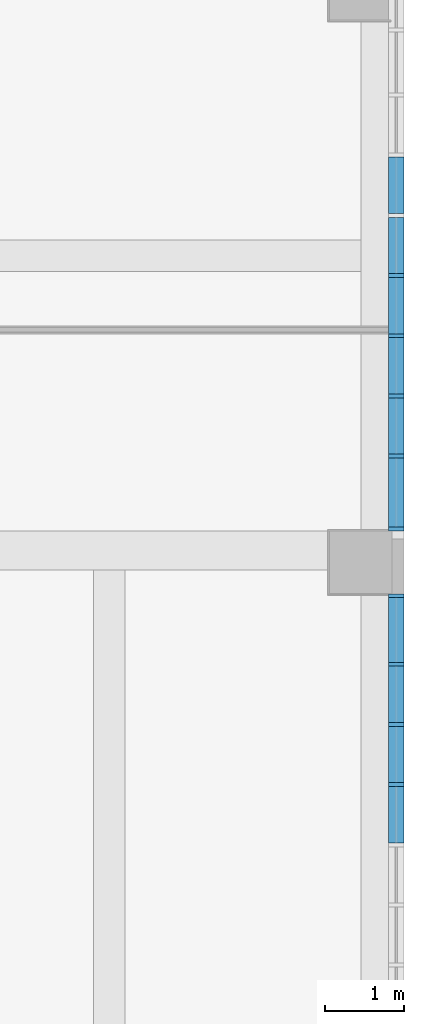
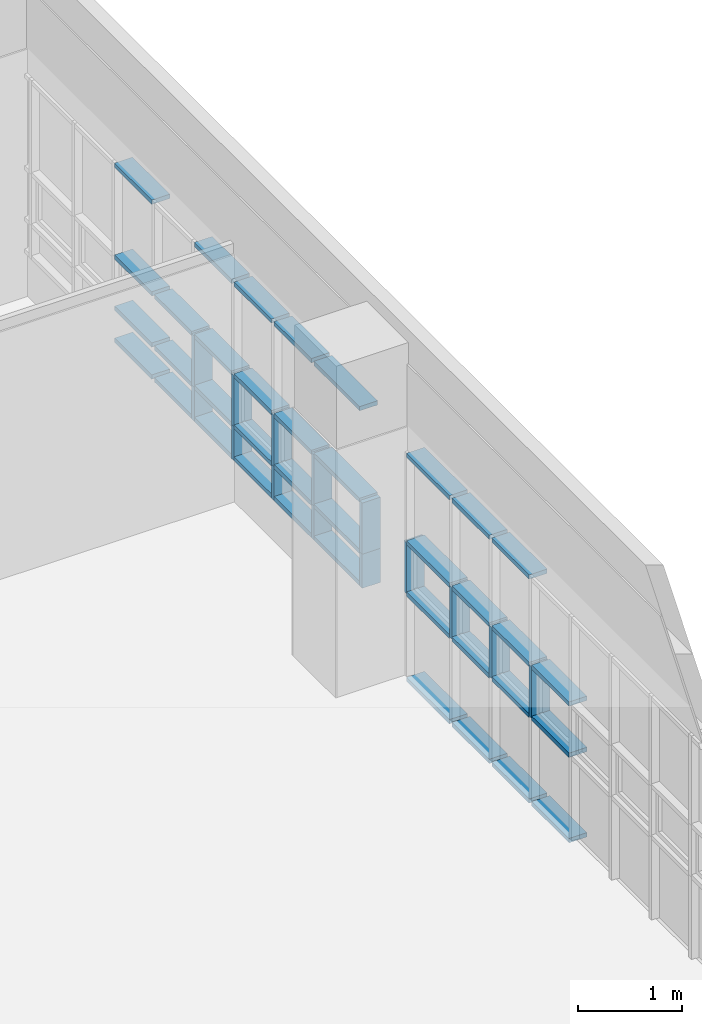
# One storey, part 20 of 81: 52 members, 2 elements without a shape of their own.
"""IFC2X3 building model written with IfcOpenShell, lengths in millimetres."""

from ifc_helpers import new_model, entity, si_unit, converted_unit, derived_unit, direction, frame, origin, origin_2d_with_axis, place, context, subcontext, project, spatial, rectangle, extrude, source, transform, mapped, material, type_object, type_shapes, element, aggregate, save


model = new_model("IFC2X3")

# Units and contexts
model_context = context("Model", 3, precision=0.01, world=origin(), true_north=direction((6.123031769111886e-17, 1.0)))
body_context = subcontext(model_context, "Body", "Model", "MODEL_VIEW")
ifc_project = project(units=[si_unit("LENGTHUNIT", "METRE", prefix="MILLI"), si_unit("AREAUNIT", "SQUARE_METRE"), si_unit("VOLUMEUNIT", "CUBIC_METRE"), converted_unit("PLANEANGLEUNIT", "DEGREE", entity("IfcRatioMeasure", 0.017453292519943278), si_unit("PLANEANGLEUNIT", "RADIAN"), dimensions=[0, 0, 0, 0, 0, 0, 0]), si_unit("MASSUNIT", "GRAM", prefix="KILO"), derived_unit("MASSDENSITYUNIT", [(si_unit("MASSUNIT", "GRAM", prefix="KILO"), 1), (si_unit("LENGTHUNIT", "METRE"), -3)]), derived_unit("MOMENTOFINERTIAUNIT", [(si_unit("LENGTHUNIT", "METRE"), 4)]), si_unit("TIMEUNIT", "SECOND"), si_unit("FREQUENCYUNIT", "HERTZ"), si_unit("THERMODYNAMICTEMPERATUREUNIT", "DEGREE_CELSIUS"), derived_unit("THERMALTRANSMITTANCEUNIT", [(si_unit("MASSUNIT", "GRAM", prefix="KILO"), 1), (si_unit("THERMODYNAMICTEMPERATUREUNIT", "KELVIN"), -1), (si_unit("TIMEUNIT", "SECOND"), -3)]), derived_unit("VOLUMETRICFLOWRATEUNIT", [(si_unit("LENGTHUNIT", "METRE"), 3), (si_unit("TIMEUNIT", "SECOND"), -1)]), derived_unit("MASSFLOWRATEUNIT", [(si_unit("MASSUNIT", "GRAM", prefix="KILO"), 1), (si_unit("TIMEUNIT", "SECOND"), -1)]), derived_unit("ROTATIONALFREQUENCYUNIT", [(si_unit("TIMEUNIT", "SECOND"), -1)]), si_unit("ELECTRICCURRENTUNIT", "AMPERE"), si_unit("ELECTRICVOLTAGEUNIT", "VOLT"), si_unit("POWERUNIT", "WATT"), si_unit("FORCEUNIT", "NEWTON", prefix="KILO"), si_unit("ILLUMINANCEUNIT", "LUX"), si_unit("LUMINOUSFLUXUNIT", "LUMEN"), si_unit("LUMINOUSINTENSITYUNIT", "CANDELA"), derived_unit("USERDEFINED", [(si_unit("MASSUNIT", "GRAM", prefix="KILO"), -1), (si_unit("LENGTHUNIT", "METRE"), -2), (si_unit("TIMEUNIT", "SECOND"), 3), (si_unit("LUMINOUSFLUXUNIT", "LUMEN"), 1)]), derived_unit("SOUNDPOWERUNIT", [(si_unit("MASSUNIT", "GRAM", prefix="KILO"), 1), (si_unit("LENGTHUNIT", "METRE"), 2), (si_unit("TIMEUNIT", "SECOND"), -3)]), derived_unit("SOUNDPRESSUREUNIT", [(si_unit("MASSUNIT", "GRAM", prefix="KILO"), 1), (si_unit("LENGTHUNIT", "METRE"), -1), (si_unit("TIMEUNIT", "SECOND"), -2)]), derived_unit("LINEARVELOCITYUNIT", [(si_unit("LENGTHUNIT", "METRE"), 1), (si_unit("TIMEUNIT", "SECOND"), -1)]), si_unit("PRESSUREUNIT", "PASCAL"), derived_unit("USERDEFINED", [(si_unit("LENGTHUNIT", "METRE"), -2), (si_unit("MASSUNIT", "GRAM", prefix="KILO"), 1), (si_unit("TIMEUNIT", "SECOND"), -2)]), derived_unit("LINEARFORCEUNIT", [(si_unit("MASSUNIT", "GRAM", prefix="KILO"), 1), (si_unit("LENGTHUNIT", "METRE"), 1), (si_unit("TIMEUNIT", "SECOND"), -2), (si_unit("LENGTHUNIT", "METRE"), -1)]), derived_unit("PLANARFORCEUNIT", [(si_unit("MASSUNIT", "GRAM", prefix="KILO"), 1), (si_unit("LENGTHUNIT", "METRE"), 1), (si_unit("TIMEUNIT", "SECOND"), -2), (si_unit("LENGTHUNIT", "METRE"), -2)])], contexts=[model_context])

# Site, building, storey
site_placement = place(None, frame((-14167.972527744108, -657.2125860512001, 0.0)))
site = spatial("IfcSite", under=ifc_project, at=site_placement, Name="Default", CompositionType="ELEMENT")
building_placement = place(site_placement, origin())
building = spatial("IfcBuilding", under=site, at=building_placement, Name="Sample Building", CompositionType="ELEMENT")
storey_placement = place(building_placement, frame((0.0, 0.0, 13400.0)))
storey = spatial("IfcBuildingStorey", under=building, at=storey_placement, Name="지상 4층", CompositionType="ELEMENT", Elevation=13400.00000000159)

# Curtain wall, members
curtain_wall_type = type_object("IfcCurtainWallType", Name="커튼월:CW112-스테인리스 스틸 커튼월", PredefinedType="NOTDEFINED")
curtain_wall_1_placement = place(storey_placement, frame((0.0, 0.0, -13400.0)))
curtain_wall_1 = element("IfcCurtainWall", 1, at=curtain_wall_1_placement, inside=storey, type_object=curtain_wall_type, Name="커튼월:CW112-스테인리스 스틸 커튼월", ObjectType="커튼월:CW112-스테인리스 스틸 커튼월")
ifc_material = material(Name="<Unnamed>")
member_type_1 = type_object("IfcMemberType", Name="직사각형 멀리언:CW200-직사각형 멀리언 50x200mm", PredefinedType="MULLION", material=ifc_material)
shared_shape_1 = source(origin(), body_context, "Body", "SweptSolid", [
    extrude(rectangle(XDim=200.0, YDim=50.0, at=origin_2d_with_axis()), frame((0.0, 0.0, -600.0), z_axis=(0.0, 0.0, 1.0), x_axis=(0.0, -1.0, 0.0)), (0.0, 0.0, 1.0), 600.0),
])
type_shapes(member_type_1, [shared_shape_1])
member_1_placement = place(curtain_wall_1_placement, frame((51517.96382893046, 9827.783036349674, 14450.0), z_axis=(0.0, 0.0, -1.0), x_axis=(0.0, -1.0, 0.0)))
member_1 = element("IfcMember", 2, at=member_1_placement, type_object=member_type_1, material=ifc_material, Name="직사각형 멀리언:CW200-직사각형 멀리언 50x200mm", ObjectType="직사각형 멀리언:CW200-직사각형 멀리언 50x200mm", context=body_context, shape_type="MappedRepresentation", body=[
    mapped(shared_shape_1, transform((0.0, 0.0, 0.0), scale=1.0)),
])
member_2_placement = place(curtain_wall_1_placement, frame((51517.96382893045, 10593.783036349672, 14450.0), z_axis=(0.0, 0.0, -1.0), x_axis=(0.0, -1.0, 0.0)))
member_2 = element("IfcMember", 3, at=member_2_placement, type_object=member_type_1, material=ifc_material, Name="직사각형 멀리언:CW200-직사각형 멀리언 50x200mm", ObjectType="직사각형 멀리언:CW200-직사각형 멀리언 50x200mm", context=body_context, shape_type="MappedRepresentation", body=[
    mapped(shared_shape_1, transform((0.0, 0.0, 0.0), scale=1.0)),
])
member_3_placement = place(curtain_wall_1_placement, frame((51517.96382893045, 11359.783036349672, 14450.0), z_axis=(0.0, 0.0, -1.0), x_axis=(0.0, -1.0, 0.0)))
member_3 = element("IfcMember", 4, at=member_3_placement, type_object=member_type_1, material=ifc_material, Name="직사각형 멀리언:CW200-직사각형 멀리언 50x200mm", ObjectType="직사각형 멀리언:CW200-직사각형 멀리언 50x200mm", context=body_context, shape_type="MappedRepresentation", body=[
    mapped(shared_shape_1, transform((0.0, 0.0, 0.0), scale=1.0)),
])
member_type_2 = type_object("IfcMemberType", Name="직사각형 멀리언:CW200-직사각형 멀리언 50x200mm", PredefinedType="MULLION", material=ifc_material)
shared_shape_2 = source(origin(), body_context, "Body", "SweptSolid", [
    extrude(rectangle(XDim=200.0, YDim=50.0, at=origin_2d_with_axis()), frame((-25.0, 0.0, -600.0), z_axis=(0.0, 0.0, 1.0), x_axis=(0.0, -1.0, 0.0)), (0.0, 0.0, 1.0), 599.9999999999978),
])
type_shapes(member_type_2, [shared_shape_2])
member_4_placement = place(curtain_wall_1_placement, frame((51517.96382893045, 12257.177624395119, 15050.0), z_axis=(0.0, 0.0, 1.0), x_axis=(0.0, 1.0, 0.0)))
member_4 = element("IfcMember", 5, at=member_4_placement, type_object=member_type_2, material=ifc_material, Name="직사각형 멀리언:CW200-직사각형 멀리언 50x200mm", ObjectType="직사각형 멀리언:CW200-직사각형 멀리언 50x200mm", context=body_context, shape_type="MappedRepresentation", body=[
    mapped(shared_shape_2, transform((0.0, 0.0, 0.0), scale=1.0)),
])

curtain_wall_2_placement = place(storey_placement, frame((0.0, 0.0, -13400.0)))
curtain_wall_2 = element("IfcCurtainWall", 6, at=curtain_wall_2_placement, inside=storey, type_object=curtain_wall_type, Name="커튼월:CW112-스테인리스 스틸 커튼월", ObjectType="커튼월:CW112-스테인리스 스틸 커튼월")
member_type_3 = type_object("IfcMemberType", Name="직사각형 멀리언:CW200-직사각형 멀리언 50x200mm", PredefinedType="MULLION", material=ifc_material)
shared_shape_3 = source(origin(), body_context, "Body", "SweptSolid", [
    extrude(rectangle(XDim=200.0, YDim=50.0, at=origin_2d_with_axis()), frame((0.0, 0.0, -600.0), z_axis=(0.0, 0.0, 1.0), x_axis=(0.0, -1.0, 0.0)), (0.0, 0.0, 1.0), 599.9999999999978),
])
type_shapes(member_type_3, [shared_shape_3])
member_5_placement = place(curtain_wall_2_placement, frame((51517.96382893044, 14775.71229514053, 14400.0), z_axis=(0.0, 0.0, -1.0), x_axis=(0.0, -1.0, 0.0)))
member_5 = element("IfcMember", 7, at=member_5_placement, type_object=member_type_3, material=ifc_material, Name="직사각형 멀리언:CW200-직사각형 멀리언 50x200mm", ObjectType="직사각형 멀리언:CW200-직사각형 멀리언 50x200mm", context=body_context, shape_type="MappedRepresentation", body=[
    mapped(shared_shape_3, transform((0.0, 0.0, 0.0), scale=1.0)),
])
member_6_placement = place(curtain_wall_2_placement, frame((51517.96382893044, 14009.712295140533, 14400.0), z_axis=(0.0, 0.0, -1.0), x_axis=(0.0, -1.0, 0.0)))
member_6 = element("IfcMember", 8, at=member_6_placement, type_object=member_type_3, material=ifc_material, Name="직사각형 멀리언:CW200-직사각형 멀리언 50x200mm", ObjectType="직사각형 멀리언:CW200-직사각형 멀리언 50x200mm", context=body_context, shape_type="MappedRepresentation", body=[
    mapped(shared_shape_3, transform((0.0, 0.0, 0.0), scale=1.0)),
])
member_7_placement = place(curtain_wall_2_placement, frame((51517.96382893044, 15541.712295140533, 14400.0), z_axis=(0.0, 0.0, -1.0), x_axis=(0.0, -1.0, 0.0)))
member_7 = element("IfcMember", 9, at=member_7_placement, type_object=member_type_3, material=ifc_material, Name="직사각형 멀리언:CW200-직사각형 멀리언 50x200mm", ObjectType="직사각형 멀리언:CW200-직사각형 멀리언 50x200mm", context=body_context, shape_type="MappedRepresentation", body=[
    mapped(shared_shape_3, transform((0.0, 0.0, 0.0), scale=1.0)),
])
member_8_placement = place(curtain_wall_2_placement, frame((51517.96382893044, 16307.712295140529, 14400.0), z_axis=(0.0, 0.0, -1.0), x_axis=(0.0, -1.0, 0.0)))
member_8 = element("IfcMember", 10, at=member_8_placement, type_object=member_type_3, material=ifc_material, Name="직사각형 멀리언:CW200-직사각형 멀리언 50x200mm", ObjectType="직사각형 멀리언:CW200-직사각형 멀리언 50x200mm", context=body_context, shape_type="MappedRepresentation", body=[
    mapped(shared_shape_3, transform((0.0, 0.0, 0.0), scale=1.0)),
])
member_type_4 = type_object("IfcMemberType", Name="직사각형 멀리언:CW200-직사각형 멀리언 50x200mm", PredefinedType="MULLION", material=ifc_material)
shared_shape_4 = source(origin(), body_context, "Body", "SweptSolid", [
    extrude(rectangle(XDim=200.0, YDim=50.0, at=origin_2d_with_axis()), frame((-25.0, 0.0, -716.0), z_axis=(0.0, 0.0, 1.0), x_axis=(0.0, -1.0, 0.0)), (0.0, 0.0, 1.0), 715.9999999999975),
])
type_shapes(member_type_4, [shared_shape_4])
member_9_placement = place(curtain_wall_2_placement, frame((51517.96382893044, 17098.71229514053, 16100.0), z_axis=(0.0, -1.0, 0.0), x_axis=(0.0, 0.0, 1.0)))
member_9 = element("IfcMember", 11, at=member_9_placement, type_object=member_type_4, material=ifc_material, Name="직사각형 멀리언:CW200-직사각형 멀리언 50x200mm", ObjectType="직사각형 멀리언:CW200-직사각형 멀리언 50x200mm", context=body_context, shape_type="MappedRepresentation", body=[
    mapped(shared_shape_4, transform((0.0, 0.0, 0.0), scale=1.0)),
])
member_10_placement = place(curtain_wall_2_placement, frame((51517.96382893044, 14800.712295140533, 16100.0), z_axis=(0.0, -1.0, 0.0), x_axis=(0.0, 0.0, 1.0)))
member_10 = element("IfcMember", 12, at=member_10_placement, type_object=member_type_4, material=ifc_material, Name="직사각형 멀리언:CW200-직사각형 멀리언 50x200mm", ObjectType="직사각형 멀리언:CW200-직사각형 멀리언 50x200mm", context=body_context, shape_type="MappedRepresentation", body=[
    mapped(shared_shape_4, transform((0.0, 0.0, 0.0), scale=1.0)),
])
member_11_placement = place(curtain_wall_2_placement, frame((51517.96382893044, 14034.712295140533, 16100.0), z_axis=(0.0, -1.0, 0.0), x_axis=(0.0, 0.0, 1.0)))
member_11 = element("IfcMember", 13, at=member_11_placement, type_object=member_type_4, material=ifc_material, Name="직사각형 멀리언:CW200-직사각형 멀리언 50x200mm", ObjectType="직사각형 멀리언:CW200-직사각형 멀리언 50x200mm", context=body_context, shape_type="MappedRepresentation", body=[
    mapped(shared_shape_4, transform((0.0, 0.0, 0.0), scale=1.0)),
])
member_12_placement = place(curtain_wall_2_placement, frame((51517.96382893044, 15566.71229514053, 16100.0), z_axis=(0.0, -1.0, 0.0), x_axis=(0.0, 0.0, 1.0)))
member_12 = element("IfcMember", 14, at=member_12_placement, type_object=member_type_4, material=ifc_material, Name="직사각형 멀리언:CW200-직사각형 멀리언 50x200mm", ObjectType="직사각형 멀리언:CW200-직사각형 멀리언 50x200mm", context=body_context, shape_type="MappedRepresentation", body=[
    mapped(shared_shape_4, transform((0.0, 0.0, 0.0), scale=1.0)),
])
member_type_5 = type_object("IfcMemberType", Name="직사각형 멀리언:CW200-직사각형 멀리언 50x200mm", PredefinedType="MULLION", material=ifc_material)
shared_shape_5 = source(origin(), body_context, "Body", "SweptSolid", [
    extrude(rectangle(XDim=200.0, YDim=50.0, at=origin_2d_with_axis()), frame((-25.0, 0.0, -716.0), z_axis=(0.0, 0.0, 1.0), x_axis=(0.0, -1.0, 0.0)), (0.0, 0.0, 1.0), 716.0000000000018),
])
type_shapes(member_type_5, [shared_shape_5])
member_13_placement = place(curtain_wall_2_placement, frame((51517.96382893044, 17814.712295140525, 14000.0), z_axis=(0.0, 1.0, 0.0), x_axis=(0.0, 0.0, -1.0)))
member_13 = element("IfcMember", 15, at=member_13_placement, type_object=member_type_5, material=ifc_material, Name="직사각형 멀리언:CW200-직사각형 멀리언 50x200mm", ObjectType="직사각형 멀리언:CW200-직사각형 멀리언 50x200mm", context=body_context, shape_type="MappedRepresentation", body=[
    mapped(shared_shape_5, transform((0.0, 0.0, 0.0), scale=1.0)),
])
member_14_placement = place(curtain_wall_2_placement, frame((51517.96382893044, 17048.71229514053, 14000.0), z_axis=(0.0, 1.0, 0.0), x_axis=(0.0, 0.0, -1.0)))
member_14 = element("IfcMember", 16, at=member_14_placement, type_object=member_type_5, material=ifc_material, Name="직사각형 멀리언:CW200-직사각형 멀리언 50x200mm", ObjectType="직사각형 멀리언:CW200-직사각형 멀리언 50x200mm", context=body_context, shape_type="MappedRepresentation", body=[
    mapped(shared_shape_5, transform((0.0, 0.0, 0.0), scale=1.0)),
])
member_15_placement = place(curtain_wall_2_placement, frame((51517.96382893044, 14750.71229514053, 14000.0), z_axis=(0.0, 1.0, 0.0), x_axis=(0.0, 0.0, -1.0)))
member_15 = element("IfcMember", 17, at=member_15_placement, type_object=member_type_5, material=ifc_material, Name="직사각형 멀리언:CW200-직사각형 멀리언 50x200mm", ObjectType="직사각형 멀리언:CW200-직사각형 멀리언 50x200mm", context=body_context, shape_type="MappedRepresentation", body=[
    mapped(shared_shape_5, transform((0.0, 0.0, 0.0), scale=1.0)),
])
member_16_placement = place(curtain_wall_2_placement, frame((51517.96382893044, 15516.712295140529, 14000.0), z_axis=(0.0, 1.0, 0.0), x_axis=(0.0, 0.0, -1.0)))
member_16 = element("IfcMember", 18, at=member_16_placement, type_object=member_type_5, material=ifc_material, Name="직사각형 멀리언:CW200-직사각형 멀리언 50x200mm", ObjectType="직사각형 멀리언:CW200-직사각형 멀리언 50x200mm", context=body_context, shape_type="MappedRepresentation", body=[
    mapped(shared_shape_5, transform((0.0, 0.0, 0.0), scale=1.0)),
])
member_17_placement = place(curtain_wall_2_placement, frame((51517.96382893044, 16282.712295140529, 14000.0), z_axis=(0.0, 1.0, 0.0), x_axis=(0.0, 0.0, -1.0)))
member_17 = element("IfcMember", 19, at=member_17_placement, type_object=member_type_5, material=ifc_material, Name="직사각형 멀리언:CW200-직사각형 멀리언 50x200mm", ObjectType="직사각형 멀리언:CW200-직사각형 멀리언 50x200mm", context=body_context, shape_type="MappedRepresentation", body=[
    mapped(shared_shape_5, transform((0.0, 0.0, 0.0), scale=1.0)),
])
member_type_6 = type_object("IfcMemberType", Name="직사각형 멀리언:CW200-직사각형 멀리언 50x200mm", PredefinedType="MULLION", material=ifc_material)
shared_shape_6 = source(origin(), body_context, "Body", "SweptSolid", [
    extrude(rectangle(XDim=200.0, YDim=50.0, at=origin_2d_with_axis()), frame((0.0, 0.0, -716.0), z_axis=(0.0, 0.0, 1.0), x_axis=(0.0, -1.0, 0.0)), (0.0, 0.0, 1.0), 715.9999999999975),
])
type_shapes(member_type_6, [shared_shape_6])
member_18_placement = place(curtain_wall_2_placement, frame((51517.96382893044, 17098.71229514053, 14400.0), z_axis=(0.0, -1.0, 0.0), x_axis=(0.0, 0.0, 1.0)))
member_18 = element("IfcMember", 20, at=member_18_placement, type_object=member_type_6, material=ifc_material, Name="직사각형 멀리언:CW200-직사각형 멀리언 50x200mm", ObjectType="직사각형 멀리언:CW200-직사각형 멀리언 50x200mm", context=body_context, shape_type="MappedRepresentation", body=[
    mapped(shared_shape_6, transform((0.0, 0.0, 0.0), scale=1.0)),
])
member_19_placement = place(curtain_wall_2_placement, frame((51517.96382893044, 17098.71229514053, 15000.0), z_axis=(0.0, -1.0, 0.0), x_axis=(0.0, 0.0, 1.0)))
member_19 = element("IfcMember", 21, at=member_19_placement, type_object=member_type_6, material=ifc_material, Name="직사각형 멀리언:CW200-직사각형 멀리언 50x200mm", ObjectType="직사각형 멀리언:CW200-직사각형 멀리언 50x200mm", context=body_context, shape_type="MappedRepresentation", body=[
    mapped(shared_shape_6, transform((0.0, 0.0, 0.0), scale=1.0)),
])
member_20_placement = place(curtain_wall_2_placement, frame((51517.96382893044, 16332.71229514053, 14400.0), z_axis=(0.0, -1.0, 0.0), x_axis=(0.0, 0.0, 1.0)))
member_20 = element("IfcMember", 22, at=member_20_placement, type_object=member_type_6, material=ifc_material, Name="직사각형 멀리언:CW200-직사각형 멀리언 50x200mm", ObjectType="직사각형 멀리언:CW200-직사각형 멀리언 50x200mm", context=body_context, shape_type="MappedRepresentation", body=[
    mapped(shared_shape_6, transform((0.0, 0.0, 0.0), scale=1.0)),
])
member_21_placement = place(curtain_wall_2_placement, frame((51517.96382893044, 16332.71229514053, 15000.0), z_axis=(0.0, -1.0, 0.0), x_axis=(0.0, 0.0, 1.0)))
member_21 = element("IfcMember", 23, at=member_21_placement, type_object=member_type_6, material=ifc_material, Name="직사각형 멀리언:CW200-직사각형 멀리언 50x200mm", ObjectType="직사각형 멀리언:CW200-직사각형 멀리언 50x200mm", context=body_context, shape_type="MappedRepresentation", body=[
    mapped(shared_shape_6, transform((0.0, 0.0, 0.0), scale=1.0)),
])
member_22_placement = place(curtain_wall_2_placement, frame((51517.96382893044, 14034.712295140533, 14400.0), z_axis=(0.0, -1.0, 0.0), x_axis=(0.0, 0.0, 1.0)))
member_22 = element("IfcMember", 24, at=member_22_placement, type_object=member_type_6, material=ifc_material, Name="직사각형 멀리언:CW200-직사각형 멀리언 50x200mm", ObjectType="직사각형 멀리언:CW200-직사각형 멀리언 50x200mm", context=body_context, shape_type="MappedRepresentation", body=[
    mapped(shared_shape_6, transform((0.0, 0.0, 0.0), scale=1.0)),
])
member_23_placement = place(curtain_wall_2_placement, frame((51517.96382893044, 14034.71229514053, 15000.0), z_axis=(0.0, -1.0, 0.0), x_axis=(0.0, 0.0, 1.0)))
member_23 = element("IfcMember", 25, at=member_23_placement, type_object=member_type_6, material=ifc_material, Name="직사각형 멀리언:CW200-직사각형 멀리언 50x200mm", ObjectType="직사각형 멀리언:CW200-직사각형 멀리언 50x200mm", context=body_context, shape_type="MappedRepresentation", body=[
    mapped(shared_shape_6, transform((0.0, 0.0, 0.0), scale=1.0)),
])
member_24_placement = place(curtain_wall_2_placement, frame((51517.96382893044, 14800.712295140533, 14400.0), z_axis=(0.0, -1.0, 0.0), x_axis=(0.0, 0.0, 1.0)))
member_24 = element("IfcMember", 26, at=member_24_placement, type_object=member_type_6, material=ifc_material, Name="직사각형 멀리언:CW200-직사각형 멀리언 50x200mm", ObjectType="직사각형 멀리언:CW200-직사각형 멀리언 50x200mm", context=body_context, shape_type="MappedRepresentation", body=[
    mapped(shared_shape_6, transform((0.0, 0.0, 0.0), scale=1.0)),
])
member_25_placement = place(curtain_wall_2_placement, frame((51517.96382893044, 14800.712295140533, 15000.0), z_axis=(0.0, -1.0, 0.0), x_axis=(0.0, 0.0, 1.0)))
member_25 = element("IfcMember", 27, at=member_25_placement, type_object=member_type_6, material=ifc_material, Name="직사각형 멀리언:CW200-직사각형 멀리언 50x200mm", ObjectType="직사각형 멀리언:CW200-직사각형 멀리언 50x200mm", context=body_context, shape_type="MappedRepresentation", body=[
    mapped(shared_shape_6, transform((0.0, 0.0, 0.0), scale=1.0)),
])
member_26_placement = place(curtain_wall_2_placement, frame((51517.96382893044, 15566.712295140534, 14400.0), z_axis=(0.0, -1.0, 0.0), x_axis=(0.0, 0.0, 1.0)))
member_26 = element("IfcMember", 28, at=member_26_placement, type_object=member_type_6, material=ifc_material, Name="직사각형 멀리언:CW200-직사각형 멀리언 50x200mm", ObjectType="직사각형 멀리언:CW200-직사각형 멀리언 50x200mm", context=body_context, shape_type="MappedRepresentation", body=[
    mapped(shared_shape_6, transform((0.0, 0.0, 0.0), scale=1.0)),
])
member_27_placement = place(curtain_wall_2_placement, frame((51517.96382893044, 15566.71229514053, 15000.0), z_axis=(0.0, -1.0, 0.0), x_axis=(0.0, 0.0, 1.0)))
member_27 = element("IfcMember", 29, at=member_27_placement, type_object=member_type_6, material=ifc_material, Name="직사각형 멀리언:CW200-직사각형 멀리언 50x200mm", ObjectType="직사각형 멀리언:CW200-직사각형 멀리언 50x200mm", context=body_context, shape_type="MappedRepresentation", body=[
    mapped(shared_shape_6, transform((0.0, 0.0, 0.0), scale=1.0)),
])

# Member
member_type_7 = type_object("IfcMemberType", Name="직사각형 멀리언:CW200-직사각형 멀리언 50x200mm", PredefinedType="MULLION", material=ifc_material)
shared_shape_7 = source(origin(), body_context, "Body", "SweptSolid", [
    extrude(rectangle(XDim=200.0, YDim=50.0, at=origin_2d_with_axis()), frame((0.0, 0.0, -716.0), z_axis=(0.0, 0.0, 1.0), x_axis=(0.0, -1.0, 0.0)), (0.0, 0.0, 1.0), 715.9999999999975),
])
type_shapes(member_type_7, [shared_shape_7])
member_28_placement = place(curtain_wall_1_placement, frame((51517.96382893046, 9086.783036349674, 13450.0), z_axis=(0.0, -1.0, 0.0), x_axis=(0.0, 0.0, 1.0)))
member_28 = element("IfcMember", 30, at=member_28_placement, type_object=member_type_7, material=ifc_material, Name="직사각형 멀리언:CW200-직사각형 멀리언 50x200mm", ObjectType="직사각형 멀리언:CW200-직사각형 멀리언 50x200mm", context=body_context, shape_type="MappedRepresentation", body=[
    mapped(shared_shape_7, transform((0.0, 0.0, 0.0), scale=1.0)),
])

member_29_placement = place(curtain_wall_1_placement, frame((51517.96382893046, 9086.783036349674, 14450.0), z_axis=(0.0, -1.0, 0.0), x_axis=(0.0, 0.0, 1.0)))
member_29 = element("IfcMember", 31, at=member_29_placement, type_object=member_type_7, material=ifc_material, Name="직사각형 멀리언:CW200-직사각형 멀리언 50x200mm", ObjectType="직사각형 멀리언:CW200-직사각형 멀리언 50x200mm", context=body_context, shape_type="MappedRepresentation", body=[
    mapped(shared_shape_7, transform((0.0, 0.0, 0.0), scale=1.0)),
])

member_30_placement = place(curtain_wall_1_placement, frame((51517.96382893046, 9086.783036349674, 15050.0), z_axis=(0.0, -1.0, 0.0), x_axis=(0.0, 0.0, 1.0)))
member_30 = element("IfcMember", 32, at=member_30_placement, type_object=member_type_7, material=ifc_material, Name="직사각형 멀리언:CW200-직사각형 멀리언 50x200mm", ObjectType="직사각형 멀리언:CW200-직사각형 멀리언 50x200mm", context=body_context, shape_type="MappedRepresentation", body=[
    mapped(shared_shape_7, transform((0.0, 0.0, 0.0), scale=1.0)),
])

member_31_placement = place(curtain_wall_1_placement, frame((51517.96382893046, 9852.783036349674, 13450.0), z_axis=(0.0, -1.0, 0.0), x_axis=(0.0, 0.0, 1.0)))
member_31 = element("IfcMember", 33, at=member_31_placement, type_object=member_type_7, material=ifc_material, Name="직사각형 멀리언:CW200-직사각형 멀리언 50x200mm", ObjectType="직사각형 멀리언:CW200-직사각형 멀리언 50x200mm", context=body_context, shape_type="MappedRepresentation", body=[
    mapped(shared_shape_7, transform((0.0, 0.0, 0.0), scale=1.0)),
])

member_32_placement = place(curtain_wall_1_placement, frame((51517.96382893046, 9852.783036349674, 14450.0), z_axis=(0.0, -1.0, 0.0), x_axis=(0.0, 0.0, 1.0)))
member_32 = element("IfcMember", 34, at=member_32_placement, type_object=member_type_7, material=ifc_material, Name="직사각형 멀리언:CW200-직사각형 멀리언 50x200mm", ObjectType="직사각형 멀리언:CW200-직사각형 멀리언 50x200mm", context=body_context, shape_type="MappedRepresentation", body=[
    mapped(shared_shape_7, transform((0.0, 0.0, 0.0), scale=1.0)),
])

member_33_placement = place(curtain_wall_1_placement, frame((51517.96382893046, 9852.783036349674, 15050.0), z_axis=(0.0, -1.0, 0.0), x_axis=(0.0, 0.0, 1.0)))
member_33 = element("IfcMember", 35, at=member_33_placement, type_object=member_type_7, material=ifc_material, Name="직사각형 멀리언:CW200-직사각형 멀리언 50x200mm", ObjectType="직사각형 멀리언:CW200-직사각형 멀리언 50x200mm", context=body_context, shape_type="MappedRepresentation", body=[
    mapped(shared_shape_7, transform((0.0, 0.0, 0.0), scale=1.0)),
])

member_34_placement = place(curtain_wall_1_placement, frame((51517.96382893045, 10618.783036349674, 13450.0), z_axis=(0.0, -1.0, 0.0), x_axis=(0.0, 0.0, 1.0)))
member_34 = element("IfcMember", 36, at=member_34_placement, type_object=member_type_7, material=ifc_material, Name="직사각형 멀리언:CW200-직사각형 멀리언 50x200mm", ObjectType="직사각형 멀리언:CW200-직사각형 멀리언 50x200mm", context=body_context, shape_type="MappedRepresentation", body=[
    mapped(shared_shape_7, transform((0.0, 0.0, 0.0), scale=1.0)),
])

member_35_placement = place(curtain_wall_1_placement, frame((51517.96382893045, 10618.783036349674, 14450.0), z_axis=(0.0, -1.0, 0.0), x_axis=(0.0, 0.0, 1.0)))
member_35 = element("IfcMember", 37, at=member_35_placement, type_object=member_type_7, material=ifc_material, Name="직사각형 멀리언:CW200-직사각형 멀리언 50x200mm", ObjectType="직사각형 멀리언:CW200-직사각형 멀리언 50x200mm", context=body_context, shape_type="MappedRepresentation", body=[
    mapped(shared_shape_7, transform((0.0, 0.0, 0.0), scale=1.0)),
])

member_36_placement = place(curtain_wall_1_placement, frame((51517.96382893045, 10618.783036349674, 15050.0), z_axis=(0.0, -1.0, 0.0), x_axis=(0.0, 0.0, 1.0)))
member_36 = element("IfcMember", 38, at=member_36_placement, type_object=member_type_7, material=ifc_material, Name="직사각형 멀리언:CW200-직사각형 멀리언 50x200mm", ObjectType="직사각형 멀리언:CW200-직사각형 멀리언 50x200mm", context=body_context, shape_type="MappedRepresentation", body=[
    mapped(shared_shape_7, transform((0.0, 0.0, 0.0), scale=1.0)),
])

member_type_8 = type_object("IfcMemberType", Name="직사각형 멀리언:CW200-직사각형 멀리언 50x200mm", PredefinedType="MULLION", material=ifc_material)
shared_shape_8 = source(origin(), body_context, "Body", "SweptSolid", [
    extrude(rectangle(XDim=200.0, YDim=50.0, at=origin_2d_with_axis()), frame((-25.0, 0.0, -716.0), z_axis=(0.0, 0.0, 1.0), x_axis=(0.0, -1.0, 0.0)), (0.0, 0.0, 1.0), 715.9999999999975),
])
type_shapes(member_type_8, [shared_shape_8])
member_37_placement = place(curtain_wall_1_placement, frame((51517.96382893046, 9852.783036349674, 16100.0), z_axis=(0.0, -1.0, 0.0), x_axis=(0.0, 0.0, 1.0)))
member_37 = element("IfcMember", 39, at=member_37_placement, type_object=member_type_8, material=ifc_material, Name="직사각형 멀리언:CW200-직사각형 멀리언 50x200mm", ObjectType="직사각형 멀리언:CW200-직사각형 멀리언 50x200mm", context=body_context, shape_type="MappedRepresentation", body=[
    mapped(shared_shape_8, transform((0.0, 0.0, 0.0), scale=1.0)),
])

member_38_placement = place(curtain_wall_1_placement, frame((51517.96382893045, 10618.783036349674, 16100.0), z_axis=(0.0, -1.0, 0.0), x_axis=(0.0, 0.0, 1.0)))
member_38 = element("IfcMember", 40, at=member_38_placement, type_object=member_type_8, material=ifc_material, Name="직사각형 멀리언:CW200-직사각형 멀리언 50x200mm", ObjectType="직사각형 멀리언:CW200-직사각형 멀리언 50x200mm", context=body_context, shape_type="MappedRepresentation", body=[
    mapped(shared_shape_8, transform((0.0, 0.0, 0.0), scale=1.0)),
])

member_type_9 = type_object("IfcMemberType", Name="직사각형 멀리언:CW200-직사각형 멀리언 50x200mm", PredefinedType="MULLION", material=ifc_material)
shared_shape_9 = source(origin(), body_context, "Body", "SweptSolid", [
    extrude(rectangle(XDim=200.0, YDim=50.0, at=origin_2d_with_axis()), frame((0.0, 0.0, -822.3945880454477), z_axis=(0.0, 0.0, 1.0), x_axis=(0.0, -1.0, 0.0)), (0.0, 0.0, 1.0), 822.3945880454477),
])
type_shapes(member_type_9, [shared_shape_9])
member_39_placement = place(curtain_wall_1_placement, frame((51517.96382893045, 11384.783036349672, 15050.0), z_axis=(0.0, -1.0, 0.0), x_axis=(0.0, 0.0, 1.0)))
member_39 = element("IfcMember", 41, at=member_39_placement, type_object=member_type_9, material=ifc_material, Name="직사각형 멀리언:CW200-직사각형 멀리언 50x200mm", ObjectType="직사각형 멀리언:CW200-직사각형 멀리언 50x200mm", context=body_context, shape_type="MappedRepresentation", body=[
    mapped(shared_shape_9, transform((0.0, 0.0, 0.0), scale=1.0)),
])

member_40_placement = place(curtain_wall_1_placement, frame((51517.96382893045, 11384.783036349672, 14450.0), z_axis=(0.0, -1.0, 0.0), x_axis=(0.0, 0.0, 1.0)))
member_40 = element("IfcMember", 42, at=member_40_placement, type_object=member_type_9, material=ifc_material, Name="직사각형 멀리언:CW200-직사각형 멀리언 50x200mm", ObjectType="직사각형 멀리언:CW200-직사각형 멀리언 50x200mm", context=body_context, shape_type="MappedRepresentation", body=[
    mapped(shared_shape_9, transform((0.0, 0.0, 0.0), scale=1.0)),
])

member_41_placement = place(curtain_wall_1_placement, frame((51517.96382893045, 11384.783036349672, 13450.0), z_axis=(0.0, -1.0, 0.0), x_axis=(0.0, 0.0, 1.0)))
member_41 = element("IfcMember", 43, at=member_41_placement, type_object=member_type_9, material=ifc_material, Name="직사각형 멀리언:CW200-직사각형 멀리언 50x200mm", ObjectType="직사각형 멀리언:CW200-직사각형 멀리언 50x200mm", context=body_context, shape_type="MappedRepresentation", body=[
    mapped(shared_shape_9, transform((0.0, 0.0, 0.0), scale=1.0)),
])

member_type_10 = type_object("IfcMemberType", Name="직사각형 멀리언:CW200-직사각형 멀리언 50x200mm", PredefinedType="MULLION", material=ifc_material)
shared_shape_10 = source(origin(), body_context, "Body", "SweptSolid", [
    extrude(rectangle(XDim=200.0, YDim=50.0, at=origin_2d_with_axis()), frame((-25.0, 0.0, -822.3945880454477), z_axis=(0.0, 0.0, 1.0), x_axis=(0.0, -1.0, 0.0)), (0.0, 0.0, 1.0), 822.3945880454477),
])
type_shapes(member_type_10, [shared_shape_10])
member_42_placement = place(curtain_wall_1_placement, frame((51517.96382893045, 11384.783036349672, 16100.0), z_axis=(0.0, -1.0, 0.0), x_axis=(0.0, 0.0, 1.0)))
member_42 = element("IfcMember", 44, at=member_42_placement, type_object=member_type_10, material=ifc_material, Name="직사각형 멀리언:CW200-직사각형 멀리언 50x200mm", ObjectType="직사각형 멀리언:CW200-직사각형 멀리언 50x200mm", context=body_context, shape_type="MappedRepresentation", body=[
    mapped(shared_shape_10, transform((0.0, 0.0, 0.0), scale=1.0)),
])

aggregate(curtain_wall_1, [member_4, member_39, member_40, member_41, member_37, member_28, member_29, member_30, member_1, member_38, member_31, member_32, member_33, member_2, member_42, member_34, member_35, member_36, member_3])

member_type_11 = type_object("IfcMemberType", Name="직사각형 멀리언:CW200-직사각형 멀리언 50x200mm", PredefinedType="MULLION", material=ifc_material)
shared_shape_11 = source(origin(), body_context, "Body", "SweptSolid", [
    extrude(rectangle(XDim=200.0, YDim=50.0, at=origin_2d_with_axis()), frame((-25.0, 0.0, -400.0), z_axis=(0.0, 0.0, 1.0), x_axis=(0.0, -1.0, 0.0)), (0.0, 0.0, 1.0), 399.9999999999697),
])
type_shapes(member_type_11, [shared_shape_11])
member_43_placement = place(curtain_wall_2_placement, frame((51517.96382893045, 13057.212383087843, 14000.0), z_axis=(0.0, 0.0, -1.0), x_axis=(0.0, -1.0, 0.0)))
member_43 = element("IfcMember", 45, at=member_43_placement, type_object=member_type_11, material=ifc_material, Name="직사각형 멀리언:CW200-직사각형 멀리언 50x200mm", ObjectType="직사각형 멀리언:CW200-직사각형 멀리언 50x200mm", context=body_context, shape_type="MappedRepresentation", body=[
    mapped(shared_shape_11, transform((0.0, 0.0, 0.0), scale=1.0)),
])

member_type_12 = type_object("IfcMemberType", Name="직사각형 멀리언:CW200-직사각형 멀리언 50x200mm", PredefinedType="MULLION", material=ifc_material)
shared_shape_12 = source(origin(), body_context, "Body", "SweptSolid", [
    extrude(rectangle(XDim=200.0, YDim=50.0, at=origin_2d_with_axis()), frame((-25.0, 0.0, -600.0), z_axis=(0.0, 0.0, 1.0), x_axis=(0.0, -1.0, 0.0)), (0.0, 0.0, 1.0), 599.9999999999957),
])
type_shapes(member_type_12, [shared_shape_12])
member_44_placement = place(curtain_wall_2_placement, frame((51517.96382893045, 13057.212383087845, 14400.0), z_axis=(0.0, 0.0, -1.0), x_axis=(0.0, -1.0, 0.0)))
member_44 = element("IfcMember", 46, at=member_44_placement, type_object=member_type_12, material=ifc_material, Name="직사각형 멀리언:CW200-직사각형 멀리언 50x200mm", ObjectType="직사각형 멀리언:CW200-직사각형 멀리언 50x200mm", context=body_context, shape_type="MappedRepresentation", body=[
    mapped(shared_shape_12, transform((0.0, 0.0, 0.0), scale=1.0)),
])

member_type_13 = type_object("IfcMemberType", Name="직사각형 멀리언:CW200-직사각형 멀리언 50x200mm", PredefinedType="MULLION", material=ifc_material)
shared_shape_13 = source(origin(), body_context, "Body", "SweptSolid", [
    extrude(rectangle(XDim=200.0, YDim=50.0, at=origin_2d_with_axis()), frame((0.0, 0.0, -400.0), z_axis=(0.0, 0.0, 1.0), x_axis=(0.0, -1.0, 0.0)), (0.0, 0.0, 1.0), 399.9999999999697),
])
type_shapes(member_type_13, [shared_shape_13])
member_45_placement = place(curtain_wall_2_placement, frame((51517.96382893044, 14775.71229514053, 14000.0), z_axis=(0.0, 0.0, -1.0), x_axis=(0.0, -1.0, 0.0)))
member_45 = element("IfcMember", 47, at=member_45_placement, type_object=member_type_13, material=ifc_material, Name="직사각형 멀리언:CW200-직사각형 멀리언 50x200mm", ObjectType="직사각형 멀리언:CW200-직사각형 멀리언 50x200mm", context=body_context, shape_type="MappedRepresentation", body=[
    mapped(shared_shape_13, transform((0.0, 0.0, 0.0), scale=1.0)),
])

member_46_placement = place(curtain_wall_2_placement, frame((51517.96382893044, 14009.712295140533, 14000.0), z_axis=(0.0, 0.0, -1.0), x_axis=(0.0, -1.0, 0.0)))
member_46 = element("IfcMember", 48, at=member_46_placement, type_object=member_type_13, material=ifc_material, Name="직사각형 멀리언:CW200-직사각형 멀리언 50x200mm", ObjectType="직사각형 멀리언:CW200-직사각형 멀리언 50x200mm", context=body_context, shape_type="MappedRepresentation", body=[
    mapped(shared_shape_13, transform((0.0, 0.0, 0.0), scale=1.0)),
])

member_47_placement = place(curtain_wall_2_placement, frame((51517.96382893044, 15541.71229514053, 14000.0), z_axis=(0.0, 0.0, -1.0), x_axis=(0.0, -1.0, 0.0)))
member_47 = element("IfcMember", 49, at=member_47_placement, type_object=member_type_13, material=ifc_material, Name="직사각형 멀리언:CW200-직사각형 멀리언 50x200mm", ObjectType="직사각형 멀리언:CW200-직사각형 멀리언 50x200mm", context=body_context, shape_type="MappedRepresentation", body=[
    mapped(shared_shape_13, transform((0.0, 0.0, 0.0), scale=1.0)),
])

member_48_placement = place(curtain_wall_2_placement, frame((51517.96382893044, 16307.712295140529, 14000.0), z_axis=(0.0, 0.0, -1.0), x_axis=(0.0, -1.0, 0.0)))
member_48 = element("IfcMember", 50, at=member_48_placement, type_object=member_type_13, material=ifc_material, Name="직사각형 멀리언:CW200-직사각형 멀리언 50x200mm", ObjectType="직사각형 멀리언:CW200-직사각형 멀리언 50x200mm", context=body_context, shape_type="MappedRepresentation", body=[
    mapped(shared_shape_13, transform((0.0, 0.0, 0.0), scale=1.0)),
])

member_type_14 = type_object("IfcMemberType", Name="직사각형 멀리언:CW200-직사각형 멀리언 50x200mm", PredefinedType="MULLION", material=ifc_material)
shared_shape_14 = source(origin(), body_context, "Body", "SweptSolid", [
    extrude(rectangle(XDim=200.0, YDim=50.0, at=origin_2d_with_axis()), frame((-25.0, 0.0, -877.4999120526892), z_axis=(0.0, 0.0, 1.0), x_axis=(0.0, -1.0, 0.0)), (0.0, 0.0, 1.0), 877.4999120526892),
])
type_shapes(member_type_14, [shared_shape_14])
member_49_placement = place(curtain_wall_2_placement, frame((51517.96382893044, 13984.71229514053, 14000.0), z_axis=(0.0, 1.0, 0.0), x_axis=(0.0, 0.0, -1.0)))
member_49 = element("IfcMember", 51, at=member_49_placement, type_object=member_type_14, material=ifc_material, Name="직사각형 멀리언:CW200-직사각형 멀리언 50x200mm", ObjectType="직사각형 멀리언:CW200-직사각형 멀리언 50x200mm", context=body_context, shape_type="MappedRepresentation", body=[
    mapped(shared_shape_14, transform((0.0, 0.0, 0.0), scale=1.0)),
])

member_type_15 = type_object("IfcMemberType", Name="직사각형 멀리언:CW200-직사각형 멀리언 50x200mm", PredefinedType="MULLION", material=ifc_material)
shared_shape_15 = source(origin(), body_context, "Body", "SweptSolid", [
    extrude(rectangle(XDim=200.0, YDim=50.0, at=origin_2d_with_axis()), frame((0.0, 0.0, -877.499912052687), z_axis=(0.0, 0.0, 1.0), x_axis=(0.0, -1.0, 0.0)), (0.0, 0.0, 1.0), 877.499912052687),
])
type_shapes(member_type_15, [shared_shape_15])
member_50_placement = place(curtain_wall_2_placement, frame((51517.96382893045, 13107.212383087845, 14400.0), z_axis=(0.0, -1.0, 0.0), x_axis=(0.0, 0.0, 1.0)))
member_50 = element("IfcMember", 52, at=member_50_placement, type_object=member_type_15, material=ifc_material, Name="직사각형 멀리언:CW200-직사각형 멀리언 50x200mm", ObjectType="직사각형 멀리언:CW200-직사각형 멀리언 50x200mm", context=body_context, shape_type="MappedRepresentation", body=[
    mapped(shared_shape_15, transform((0.0, 0.0, 0.0), scale=1.0)),
])

member_51_placement = place(curtain_wall_2_placement, frame((51517.96382893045, 13107.212383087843, 15000.0), z_axis=(0.0, -1.0, 0.0), x_axis=(0.0, 0.0, 1.0)))
member_51 = element("IfcMember", 53, at=member_51_placement, type_object=member_type_15, material=ifc_material, Name="직사각형 멀리언:CW200-직사각형 멀리언 50x200mm", ObjectType="직사각형 멀리언:CW200-직사각형 멀리언 50x200mm", context=body_context, shape_type="MappedRepresentation", body=[
    mapped(shared_shape_15, transform((0.0, 0.0, 0.0), scale=1.0)),
])

member_type_16 = type_object("IfcMemberType", Name="직사각형 멀리언:CW200-직사각형 멀리언 50x200mm", PredefinedType="MULLION", material=ifc_material)
shared_shape_16 = source(origin(), body_context, "Body", "SweptSolid", [
    extrude(rectangle(XDim=200.0, YDim=50.0, at=origin_2d_with_axis()), frame((-25.0, 0.0, -877.4999120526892), z_axis=(0.0, 0.0, 1.0), x_axis=(0.0, -1.0, 0.0)), (0.0, 0.0, 1.0), 877.4999120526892),
])
type_shapes(member_type_16, [shared_shape_16])
member_52_placement = place(curtain_wall_2_placement, frame((51517.96382893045, 13107.212383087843, 16100.0), z_axis=(0.0, -1.0, 0.0), x_axis=(0.0, 0.0, 1.0)))
member_52 = element("IfcMember", 54, at=member_52_placement, type_object=member_type_16, material=ifc_material, Name="직사각형 멀리언:CW200-직사각형 멀리언 50x200mm", ObjectType="직사각형 멀리언:CW200-직사각형 멀리언 50x200mm", context=body_context, shape_type="MappedRepresentation", body=[
    mapped(shared_shape_16, transform((0.0, 0.0, 0.0), scale=1.0)),
])

aggregate(curtain_wall_2, [member_43, member_44, member_13, member_18, member_19, member_9, member_14, member_20, member_21, member_10, member_15, member_22, member_23, member_45, member_5, member_11, member_49, member_50, member_51, member_46, member_6, member_16, member_24, member_25, member_12, member_47, member_7, member_17, member_26, member_27, member_48, member_8, member_52])

save(model, "model.ifc")
